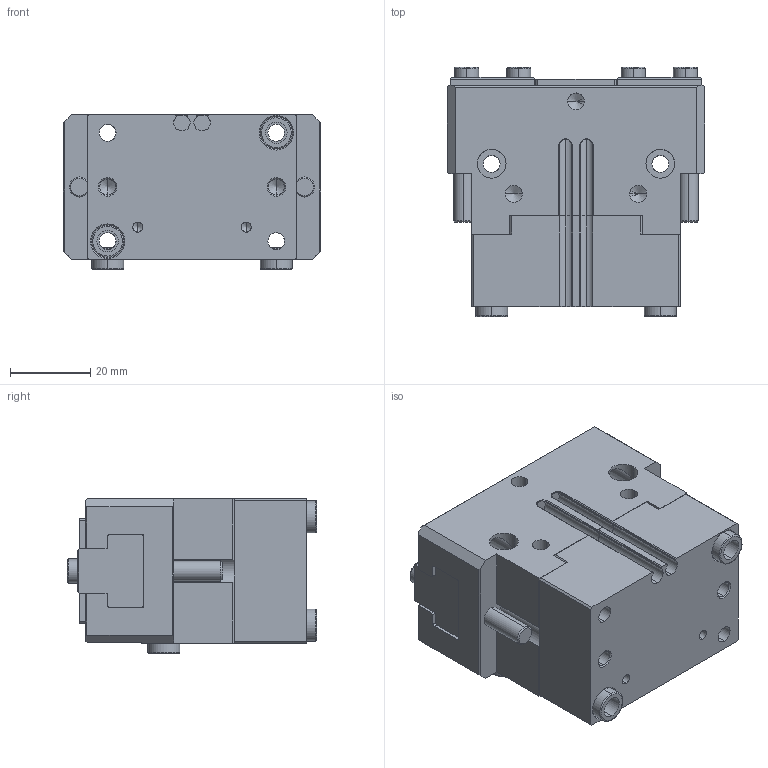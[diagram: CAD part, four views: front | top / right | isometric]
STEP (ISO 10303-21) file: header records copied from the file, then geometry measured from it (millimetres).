
FILE_DESCRIPTION (( 'STEP AP203' ), '1' );
FILE_NAME ('OPP-64-C1-MC&MA-原始檔-組合-W106.04.19.STEP', '2017-04-19T08:51:48', ( 'DanyaoCAD' ), ( '' ), 'SwSTEP 2.0', 'SolidWorks 2016', '' );
FILE_SCHEMA (( 'CONFIG_CONTROL_DESIGN' ));
Length unit declared in the file: millimetre
Products named in the file (7): Fondello; OPP-64-C1-MC&MA-原始檔-組合-W106.04.19; Corpo; Boccola _; Boccola __2; Coperchio; Griffa
Assembly tree (13 placements, depth 2):
  OPP-64-C1-MC&MA-原始檔-組合-W106.04.19
    Corpo
    Boccola _  x4
    Boccola __2  x4
    Coperchio
    Griffa  x2
    Fondello
Bounding box: 64 x 62 x 38.5 mm (x, y, z)
Volume: 102245.2 mm3; surface area: 36167.9 mm2
Topology: 13 solids, 13 shells, 1256 faces, 3422 edges, 2220 vertices
Faces by surface type: bspline 672, plane 330, cylinder 166, cone 88
Entity records: 54041 total; most frequent: CARTESIAN_POINT 28104, ORIENTED_EDGE 6328, EDGE_CURVE 3164, DIRECTION 3158, VERTEX_POINT 2082, LINE 1506, VECTOR 1506, B_SPLINE_CURVE_WITH_KNOTS 1326
